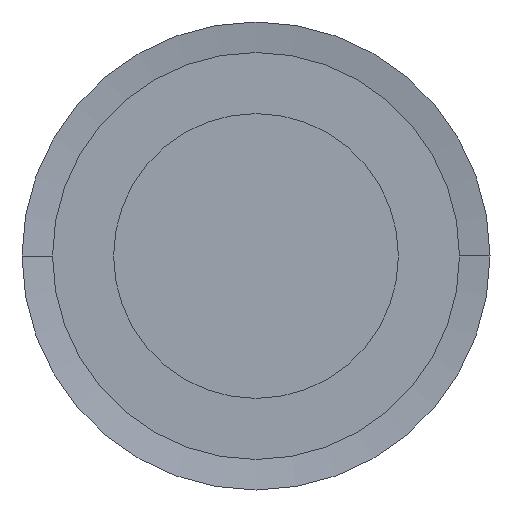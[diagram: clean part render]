
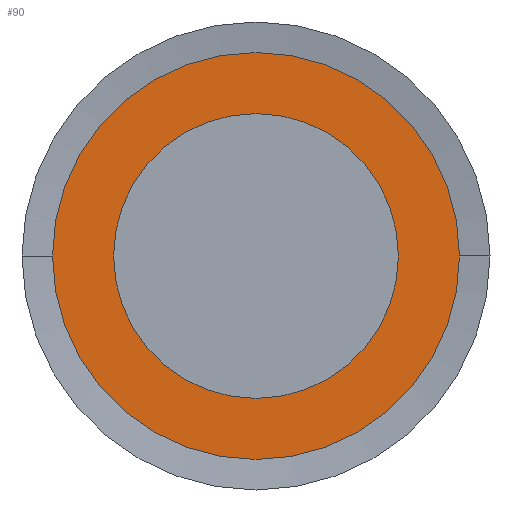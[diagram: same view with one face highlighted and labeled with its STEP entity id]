
A CAD part, left-side view. The second image highlights one B-rep face of the part: STEP entity #90.
In plain terms, the highlighted planar face has unit normal (-1, 0, 0).
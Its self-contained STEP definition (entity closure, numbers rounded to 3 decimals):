
#90 = ADVANCED_FACE( '', ( #230, #231 ), #232, .T. );
#230 = FACE_BOUND( '', #477, .T. );
#231 = FACE_OUTER_BOUND( '', #478, .T. );
#232 = PLANE( '', #479 );
#477 = EDGE_LOOP( '', ( #984, #985 ) );
#478 = EDGE_LOOP( '', ( #986, #987 ) );
#479 = AXIS2_PLACEMENT_3D( '', #988, #989, #990 );
#984 = ORIENTED_EDGE( '', *, *, #1723, .F. );
#985 = ORIENTED_EDGE( '', *, *, #1953, .F. );
#986 = ORIENTED_EDGE( '', *, *, #1954, .T. );
#987 = ORIENTED_EDGE( '', *, *, #1735, .T. );
#988 = CARTESIAN_POINT( '', ( 0.15, 8.5, 0. ) );
#989 = DIRECTION( '', ( -1., 0., 0. ) );
#990 = DIRECTION( '', ( 0., 1., 0. ) );
#1723 = EDGE_CURVE( '', #2056, #2059, #2060, .T. );
#1735 = EDGE_CURVE( '', #2083, #2080, #2084, .T. );
#1953 = EDGE_CURVE( '', #2059, #2056, #2507, .T. );
#1954 = EDGE_CURVE( '', #2080, #2083, #2508, .T. );
#2056 = VERTEX_POINT( '', #2610 );
#2059 = VERTEX_POINT( '', #2614 );
#2060 = CIRCLE( '', #2615, 7. );
#2080 = VERTEX_POINT( '', #2640 );
#2083 = VERTEX_POINT( '', #2644 );
#2084 = CIRCLE( '', #2645, 10. );
#2507 = CIRCLE( '', #3151, 7. );
#2508 = CIRCLE( '', #3152, 10. );
#2610 = CARTESIAN_POINT( '', ( 0.15, 7., 0. ) );
#2614 = CARTESIAN_POINT( '', ( 0.15, -7., 0. ) );
#2615 = AXIS2_PLACEMENT_3D( '', #3351, #3352, #3353 );
#2640 = CARTESIAN_POINT( '', ( 0.15, 10., 0. ) );
#2644 = CARTESIAN_POINT( '', ( 0.15, -10., 0. ) );
#2645 = AXIS2_PLACEMENT_3D( '', #3375, #3376, #3377 );
#3151 = AXIS2_PLACEMENT_3D( '', #3863, #3864, #3865 );
#3152 = AXIS2_PLACEMENT_3D( '', #3866, #3867, #3868 );
#3351 = CARTESIAN_POINT( '', ( 0.15, 0., 0. ) );
#3352 = DIRECTION( '', ( -1., 0., 0. ) );
#3353 = DIRECTION( '', ( 0., 1., 0. ) );
#3375 = CARTESIAN_POINT( '', ( 0.15, 0., 0. ) );
#3376 = DIRECTION( '', ( -1., 0., 0. ) );
#3377 = DIRECTION( '', ( 0., 1., 0. ) );
#3863 = CARTESIAN_POINT( '', ( 0.15, 0., 0. ) );
#3864 = DIRECTION( '', ( -1., 0., 0. ) );
#3865 = DIRECTION( '', ( 0., 1., 0. ) );
#3866 = CARTESIAN_POINT( '', ( 0.15, 0., 0. ) );
#3867 = DIRECTION( '', ( -1., 0., 0. ) );
#3868 = DIRECTION( '', ( 0., 1., 0. ) );
